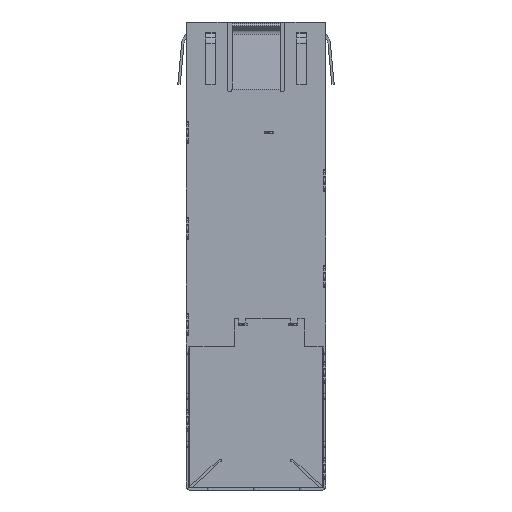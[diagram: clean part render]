
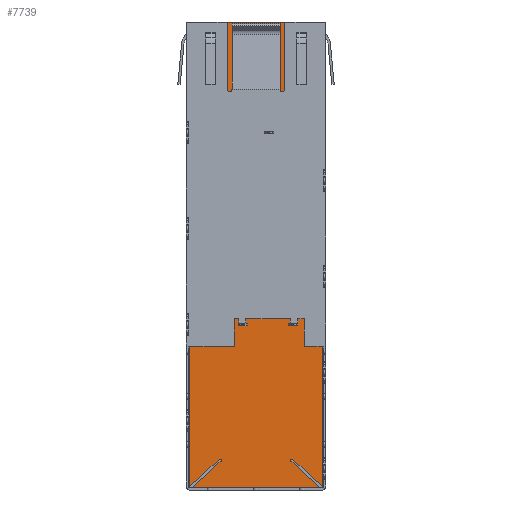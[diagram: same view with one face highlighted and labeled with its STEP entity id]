
A CAD part, front view. The second image highlights one B-rep face of the part: STEP entity #7739.
In plain terms, the highlighted planar face has unit normal (0, -1, 0).
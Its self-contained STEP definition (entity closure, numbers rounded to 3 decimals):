
#153 = EDGE_CURVE ( 'NONE', #4646, #7699, #160, .T. ) ;
#160 = LINE ( 'NONE', #6716, #1806 ) ;
#1806 = VECTOR ( 'NONE', #9166, 1000. ) ;
#1989 = ORIENTED_EDGE ( 'NONE', *, *, #6789, .T. ) ;
#2287 = VECTOR ( 'NONE', #8974, 1000. ) ;
#3478 = VERTEX_POINT ( 'NONE', #7142 ) ;
#3753 = DIRECTION ( 'NONE',  ( -1., 0., 0. ) ) ;
#3977 = CARTESIAN_POINT ( 'NONE',  ( -6.95, 9.2, -48.5 ) ) ;
#4112 = CARTESIAN_POINT ( 'NONE',  ( 6.95, 9.2, -65.366 ) ) ;
#4646 = VERTEX_POINT ( 'NONE', #3977 ) ;
#4667 = AXIS2_PLACEMENT_3D ( 'NONE', #4112, #9817, #4925 ) ;
#4925 = DIRECTION ( 'NONE',  ( 0., 0., 1. ) ) ;
#5146 = ORIENTED_EDGE ( 'NONE', *, *, #153, .F. ) ;
#5361 = CARTESIAN_POINT ( 'NONE',  ( 6.95, 9.2, -48.5 ) ) ;
#5623 = ORIENTED_EDGE ( 'NONE', *, *, #10004, .F. ) ;
#5686 = CARTESIAN_POINT ( 'NONE',  ( -6.95, 9.2, 0. ) ) ;
#6716 = CARTESIAN_POINT ( 'NONE',  ( -6.95, 9.2, -65.366 ) ) ;
#6789 = EDGE_CURVE ( 'NONE', #8744, #3478, #8307, .T. ) ;
#7117 = LINE ( 'NONE', #8345, #9043 ) ;
#7142 = CARTESIAN_POINT ( 'NONE',  ( 6.95, 9.2, 0. ) ) ;
#7365 = CARTESIAN_POINT ( 'NONE',  ( 6.95, 9.2, -65.366 ) ) ;
#7555 = EDGE_LOOP ( 'NONE', ( #1989, #9557, #5146, #5623 ) ) ;
#7699 = VERTEX_POINT ( 'NONE', #5686 ) ;
#7739 = ADVANCED_FACE ( 'NONE', ( #9693 ), #8998, .F. ) ;
#7963 = CARTESIAN_POINT ( 'NONE',  ( 6.95, 9.2, -48.5 ) ) ;
#8307 = LINE ( 'NONE', #7365, #2287 ) ;
#8345 = CARTESIAN_POINT ( 'NONE',  ( 6.95, 9.2, 0. ) ) ;
#8395 = EDGE_CURVE ( 'NONE', #3478, #7699, #7117, .T. ) ;
#8744 = VERTEX_POINT ( 'NONE', #7963 ) ;
#8753 = VECTOR ( 'NONE', #3753, 1000. ) ;
#8974 = DIRECTION ( 'NONE',  ( 0., 0., 1. ) ) ;
#8998 = PLANE ( 'NONE',  #4667 ) ;
#9043 = VECTOR ( 'NONE', #9996, 1000. ) ;
#9166 = DIRECTION ( 'NONE',  ( 0., 0., 1. ) ) ;
#9557 = ORIENTED_EDGE ( 'NONE', *, *, #8395, .T. ) ;
#9693 = FACE_OUTER_BOUND ( 'NONE', #7555, .T. ) ;
#9775 = LINE ( 'NONE', #5361, #8753 ) ;
#9817 = DIRECTION ( 'NONE',  ( 0., 1., 0. ) ) ;
#9996 = DIRECTION ( 'NONE',  ( -1., 0., 0. ) ) ;
#10004 = EDGE_CURVE ( 'NONE', #8744, #4646, #9775, .T. ) ;
